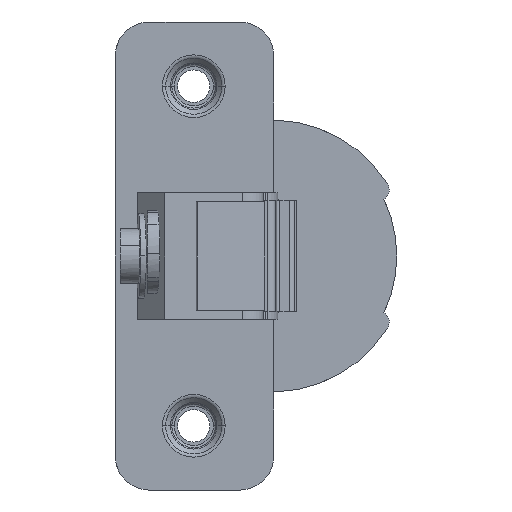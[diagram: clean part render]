
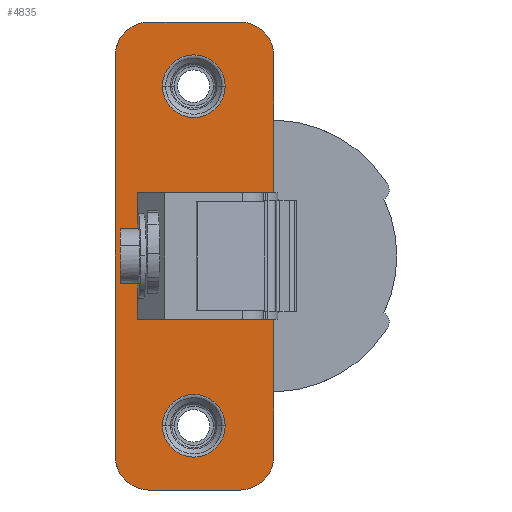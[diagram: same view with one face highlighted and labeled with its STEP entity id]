
A CAD part, left-side view. The second image highlights one B-rep face of the part: STEP entity #4835.
In plain terms, the highlighted planar face has unit normal (-1, -0.003, 0).
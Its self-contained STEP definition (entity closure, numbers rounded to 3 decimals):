
#3 = VERTEX_POINT ( 'NONE', #372 ) ;
#41 = VECTOR ( 'NONE', #1402, 1000. ) ;
#44 = DIRECTION ( 'NONE',  ( 0., 0., -1. ) ) ;
#131 = EDGE_CURVE ( 'NONE', #5165, #3, #450, .T. ) ;
#198 = DIRECTION ( 'NONE',  ( 0., 0., 1. ) ) ;
#253 = VECTOR ( 'NONE', #1697, 1000. ) ;
#328 = VERTEX_POINT ( 'NONE', #4562 ) ;
#372 = CARTESIAN_POINT ( 'NONE',  ( -6.609, -5.423, -22.5 ) ) ;
#388 = DIRECTION ( 'NONE',  ( -1., -0.003, 0. ) ) ;
#389 = VERTEX_POINT ( 'NONE', #898 ) ;
#439 = DIRECTION ( 'NONE',  ( -0.003, 1., 0. ) ) ;
#447 = ORIENTED_EDGE ( 'NONE', *, *, #3431, .F. ) ;
#450 = CIRCLE ( 'NONE', #2489, 4.149 ) ;
#468 = DIRECTION ( 'NONE',  ( -1., -0.003, 0. ) ) ;
#494 = CARTESIAN_POINT ( 'NONE',  ( -6.59, -11.875, -26.536 ) ) ;
#527 = VECTOR ( 'NONE', #44, 1000. ) ;
#563 = CARTESIAN_POINT ( 'NONE',  ( -6.622, -1.275, -22.5 ) ) ;
#568 = CARTESIAN_POINT ( 'NONE',  ( -6.604, -7.411, 31. ) ) ;
#570 = CIRCLE ( 'NONE', #1508, 4.464 ) ;
#603 = EDGE_CURVE ( 'NONE', #3080, #3657, #570, .T. ) ;
#619 = VECTOR ( 'NONE', #1864, 1000. ) ;
#669 = LINE ( 'NONE', #4029, #527 ) ;
#739 = LINE ( 'NONE', #1895, #4066 ) ;
#786 = ORIENTED_EDGE ( 'NONE', *, *, #4758, .T. ) ;
#821 = AXIS2_PLACEMENT_3D ( 'NONE', #3376, #969, #3769 ) ;
#837 = EDGE_LOOP ( 'NONE', ( #1131, #447, #4721, #4017, #5036, #2772, #2728, #3488, #4312, #1698, #1182, #786 ) ) ;
#898 = CARTESIAN_POINT ( 'NONE',  ( -6.59, -11.875, -26.536 ) ) ;
#913 = LINE ( 'NONE', #2392, #3983 ) ;
#960 = DIRECTION ( 'NONE',  ( 0.003, -1., 0. ) ) ;
#969 = DIRECTION ( 'NONE',  ( 1., 0.003, 0. ) ) ;
#1053 = LINE ( 'NONE', #3007, #1734 ) ;
#1085 = AXIS2_PLACEMENT_3D ( 'NONE', #1596, #2837, #439 ) ;
#1131 = ORIENTED_EDGE ( 'NONE', *, *, #2851, .T. ) ;
#1182 = ORIENTED_EDGE ( 'NONE', *, *, #1542, .T. ) ;
#1198 = EDGE_CURVE ( 'NONE', #3728, #4586, #739, .T. ) ;
#1264 = DIRECTION ( 'NONE',  ( 0.003, -1., 0. ) ) ;
#1276 = EDGE_CURVE ( 'NONE', #3, #5165, #3083, .T. ) ;
#1341 = VERTEX_POINT ( 'NONE', #5031 ) ;
#1343 = DIRECTION ( 'NONE',  ( 1., 0.003, 0. ) ) ;
#1402 = DIRECTION ( 'NONE',  ( 0.003, -1., 0. ) ) ;
#1495 = EDGE_CURVE ( 'NONE', #3503, #328, #3936, .T. ) ;
#1508 = AXIS2_PLACEMENT_3D ( 'NONE', #2869, #468, #3274 ) ;
#1542 = EDGE_CURVE ( 'NONE', #3657, #1341, #4896, .T. ) ;
#1545 = VERTEX_POINT ( 'NONE', #4261 ) ;
#1555 = EDGE_CURVE ( 'NONE', #4336, #1545, #2764, .T. ) ;
#1596 = CARTESIAN_POINT ( 'NONE',  ( -6.639, 4.662, -26.536 ) ) ;
#1622 = EDGE_CURVE ( 'NONE', #4390, #3773, #1785, .T. ) ;
#1640 = ORIENTED_EDGE ( 'NONE', *, *, #2607, .T. ) ;
#1656 = DIRECTION ( 'NONE',  ( -1., -0.003, 0. ) ) ;
#1697 = DIRECTION ( 'NONE',  ( 0.003, -1., 0. ) ) ;
#1698 = ORIENTED_EDGE ( 'NONE', *, *, #603, .T. ) ;
#1727 = FACE_BOUND ( 'NONE', #4546, .T. ) ;
#1734 = VECTOR ( 'NONE', #198, 1000. ) ;
#1785 = CIRCLE ( 'NONE', #2973, 4.464 ) ;
#1864 = DIRECTION ( 'NONE',  ( 0.003, -1., 0. ) ) ;
#1895 = CARTESIAN_POINT ( 'NONE',  ( -6.634, 3.087, 8.4 ) ) ;
#1934 = EDGE_CURVE ( 'NONE', #3773, #3503, #913, .T. ) ;
#2057 = ORIENTED_EDGE ( 'NONE', *, *, #1555, .T. ) ;
#2137 = VERTEX_POINT ( 'NONE', #4657 ) ;
#2178 = LINE ( 'NONE', #3779, #41 ) ;
#2192 = CARTESIAN_POINT ( 'NONE',  ( -6.59, -11.875, -8.4 ) ) ;
#2231 = VERTEX_POINT ( 'NONE', #2192 ) ;
#2241 = CARTESIAN_POINT ( 'NONE',  ( -6.604, -7.411, 26.536 ) ) ;
#2244 = CARTESIAN_POINT ( 'NONE',  ( -6.639, 4.662, 26.536 ) ) ;
#2277 = DIRECTION ( 'NONE',  ( 0., 0., -1. ) ) ;
#2350 = AXIS2_PLACEMENT_3D ( 'NONE', #3724, #1343, #4129 ) ;
#2392 = CARTESIAN_POINT ( 'NONE',  ( -6.639, 4.662, 31. ) ) ;
#2489 = AXIS2_PLACEMENT_3D ( 'NONE', #4461, #1656, #1264 ) ;
#2572 = EDGE_CURVE ( 'NONE', #3728, #2137, #3321, .T. ) ;
#2607 = EDGE_CURVE ( 'NONE', #1545, #4336, #4124, .T. ) ;
#2642 = DIRECTION ( 'NONE',  ( 0.003, -1., 0. ) ) ;
#2646 = DIRECTION ( 'NONE',  ( 0.003, -1., 0. ) ) ;
#2710 = ORIENTED_EDGE ( 'NONE', *, *, #1276, .F. ) ;
#2728 = ORIENTED_EDGE ( 'NONE', *, *, #1934, .T. ) ;
#2735 = CARTESIAN_POINT ( 'NONE',  ( -6.59, -11.875, 26.536 ) ) ;
#2764 = CIRCLE ( 'NONE', #821, 4.149 ) ;
#2772 = ORIENTED_EDGE ( 'NONE', *, *, #1622, .T. ) ;
#2790 = CARTESIAN_POINT ( 'NONE',  ( -6.604, -7.411, -26.536 ) ) ;
#2793 = DIRECTION ( 'NONE',  ( -0.003, 1., 0. ) ) ;
#2798 = FACE_OUTER_BOUND ( 'NONE', #837, .T. ) ;
#2837 = DIRECTION ( 'NONE',  ( -1., -0.003, 0. ) ) ;
#2851 = EDGE_CURVE ( 'NONE', #389, #2231, #4649, .T. ) ;
#2869 = CARTESIAN_POINT ( 'NONE',  ( -6.639, 4.662, -26.536 ) ) ;
#2883 = CARTESIAN_POINT ( 'NONE',  ( -6.639, 4.662, -31. ) ) ;
#2973 = AXIS2_PLACEMENT_3D ( 'NONE', #2241, #5066, #2642 ) ;
#3007 = CARTESIAN_POINT ( 'NONE',  ( -6.59, -11.875, -26.536 ) ) ;
#3080 = VERTEX_POINT ( 'NONE', #4386 ) ;
#3083 = CIRCLE ( 'NONE', #3967, 4.149 ) ;
#3198 = DIRECTION ( 'NONE',  ( 0.003, -1., 0. ) ) ;
#3274 = DIRECTION ( 'NONE',  ( 0.003, -1., 0. ) ) ;
#3305 = DIRECTION ( 'NONE',  ( 0., 0., 1. ) ) ;
#3321 = LINE ( 'NONE', #4509, #253 ) ;
#3367 = DIRECTION ( 'NONE',  ( -1., -0.003, 0. ) ) ;
#3369 = ORIENTED_EDGE ( 'NONE', *, *, #131, .F. ) ;
#3376 = CARTESIAN_POINT ( 'NONE',  ( -6.622, -1.275, 22.5 ) ) ;
#3431 = EDGE_CURVE ( 'NONE', #4586, #2231, #2178, .T. ) ;
#3488 = ORIENTED_EDGE ( 'NONE', *, *, #1495, .T. ) ;
#3503 = VERTEX_POINT ( 'NONE', #4225 ) ;
#3573 = VECTOR ( 'NONE', #3305, 1000. ) ;
#3657 = VERTEX_POINT ( 'NONE', #2883 ) ;
#3724 = CARTESIAN_POINT ( 'NONE',  ( -6.622, -1.275, 22.5 ) ) ;
#3728 = VERTEX_POINT ( 'NONE', #4114 ) ;
#3769 = DIRECTION ( 'NONE',  ( 0.003, -1., 0. ) ) ;
#3773 = VERTEX_POINT ( 'NONE', #568 ) ;
#3779 = CARTESIAN_POINT ( 'NONE',  ( -6.737, 38.043, -8.4 ) ) ;
#3845 = CARTESIAN_POINT ( 'NONE',  ( -6.634, 2.874, -22.5 ) ) ;
#3849 = CARTESIAN_POINT ( 'NONE',  ( -6.604, -7.411, -31. ) ) ;
#3852 = AXIS2_PLACEMENT_3D ( 'NONE', #2790, #388, #3198 ) ;
#3859 = FACE_BOUND ( 'NONE', #4237, .T. ) ;
#3936 = CIRCLE ( 'NONE', #4959, 4.464 ) ;
#3967 = AXIS2_PLACEMENT_3D ( 'NONE', #563, #3367, #960 ) ;
#3983 = VECTOR ( 'NONE', #2793, 1000. ) ;
#4017 = ORIENTED_EDGE ( 'NONE', *, *, #2572, .T. ) ;
#4029 = CARTESIAN_POINT ( 'NONE',  ( -6.652, 9.125, -26.536 ) ) ;
#4066 = VECTOR ( 'NONE', #2277, 1000. ) ;
#4114 = CARTESIAN_POINT ( 'NONE',  ( -6.634, 3.087, 8.4 ) ) ;
#4124 = CIRCLE ( 'NONE', #2350, 4.149 ) ;
#4129 = DIRECTION ( 'NONE',  ( 0.003, -1., 0. ) ) ;
#4225 = CARTESIAN_POINT ( 'NONE',  ( -6.639, 4.662, 31. ) ) ;
#4237 = EDGE_LOOP ( 'NONE', ( #2710, #3369 ) ) ;
#4261 = CARTESIAN_POINT ( 'NONE',  ( -6.609, -5.423, 22.5 ) ) ;
#4271 = EDGE_CURVE ( 'NONE', #2137, #4390, #1053, .T. ) ;
#4312 = ORIENTED_EDGE ( 'NONE', *, *, #4856, .T. ) ;
#4336 = VERTEX_POINT ( 'NONE', #5056 ) ;
#4386 = CARTESIAN_POINT ( 'NONE',  ( -6.652, 9.125, -26.536 ) ) ;
#4390 = VERTEX_POINT ( 'NONE', #2735 ) ;
#4436 = PLANE ( 'NONE',  #1085 ) ;
#4461 = CARTESIAN_POINT ( 'NONE',  ( -6.622, -1.275, -22.5 ) ) ;
#4509 = CARTESIAN_POINT ( 'NONE',  ( -6.737, 38.043, 8.4 ) ) ;
#4546 = EDGE_LOOP ( 'NONE', ( #1640, #2057 ) ) ;
#4562 = CARTESIAN_POINT ( 'NONE',  ( -6.652, 9.125, 26.536 ) ) ;
#4586 = VERTEX_POINT ( 'NONE', #4882 ) ;
#4649 = LINE ( 'NONE', #494, #3573 ) ;
#4657 = CARTESIAN_POINT ( 'NONE',  ( -6.59, -11.875, 8.4 ) ) ;
#4721 = ORIENTED_EDGE ( 'NONE', *, *, #1198, .F. ) ;
#4758 = EDGE_CURVE ( 'NONE', #1341, #389, #5203, .T. ) ;
#4835 = ADVANCED_FACE ( 'NONE', ( #2798, #3859, #1727 ), #4436, .T. ) ;
#4856 = EDGE_CURVE ( 'NONE', #328, #3080, #669, .T. ) ;
#4882 = CARTESIAN_POINT ( 'NONE',  ( -6.634, 3.087, -8.4 ) ) ;
#4896 = LINE ( 'NONE', #3849, #619 ) ;
#4959 = AXIS2_PLACEMENT_3D ( 'NONE', #2244, #5068, #2646 ) ;
#5031 = CARTESIAN_POINT ( 'NONE',  ( -6.604, -7.411, -31. ) ) ;
#5036 = ORIENTED_EDGE ( 'NONE', *, *, #4271, .T. ) ;
#5056 = CARTESIAN_POINT ( 'NONE',  ( -6.634, 2.874, 22.5 ) ) ;
#5066 = DIRECTION ( 'NONE',  ( -1., -0.003, 0. ) ) ;
#5068 = DIRECTION ( 'NONE',  ( -1., -0.003, 0. ) ) ;
#5165 = VERTEX_POINT ( 'NONE', #3845 ) ;
#5203 = CIRCLE ( 'NONE', #3852, 4.464 ) ;
